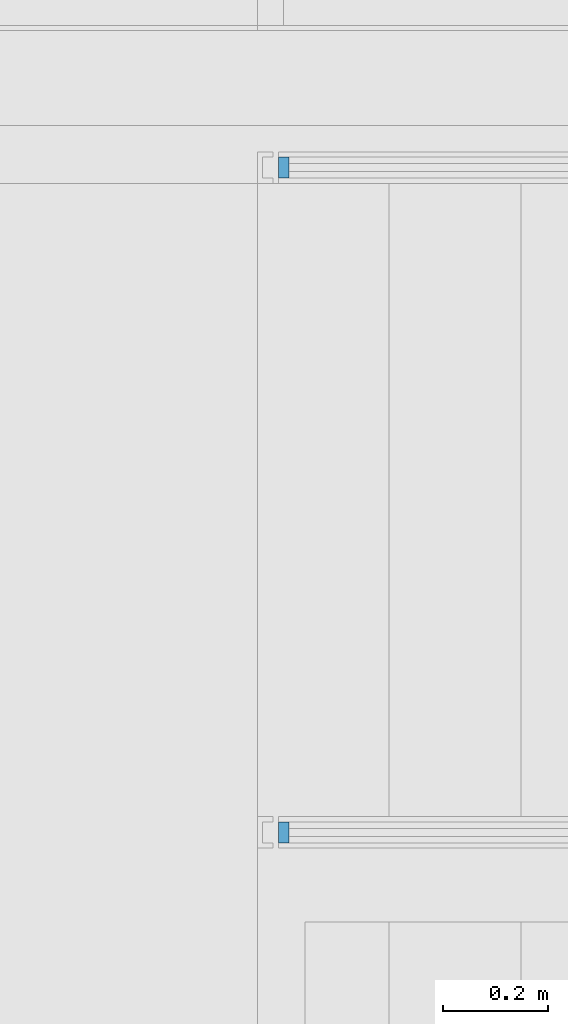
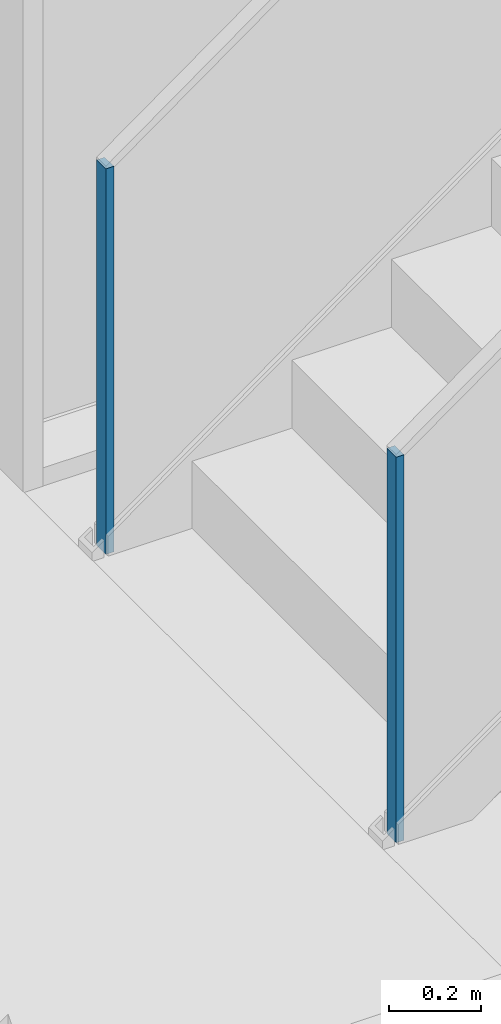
# One storey, part 12 of 347: 2 columns.
"""IFC2X3 building model written with IfcOpenShell, lengths in millimetres."""

from ifc_helpers import new_model, entity, si_unit, converted_unit, derived_unit, money_unit, direction, frame, origin_with_axes, place, context, subcontext, project, spatial, faceted_brep, material, type_object, element, save


model = new_model("IFC2X3")

# Units and contexts
model_context = context("Model", 3, precision=0.01, world=origin_with_axes(), true_north=direction((0.0, 1.0)))
plan_context = context("Plan", 3, precision=0.01, world=origin_with_axes(), true_north=direction((0.0, 1.0)))
body_context = subcontext(model_context, "Body", "Model", "MODEL_VIEW")
ifc_project = project(units=[si_unit("LENGTHUNIT", "METRE", prefix="MILLI"), si_unit("AREAUNIT", "SQUARE_METRE"), si_unit("VOLUMEUNIT", "CUBIC_METRE"), converted_unit("PLANEANGLEUNIT", "DEGREE", entity("IfcPlaneAngleMeasure", 0.0174532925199), si_unit("PLANEANGLEUNIT", "RADIAN"), dimensions=[0, 0, 0, 0, 0, 0, 0]), money_unit("EUR"), converted_unit("TIMEUNIT", "Year", entity("IfcTimeMeasure", 31556926.0), si_unit("TIMEUNIT", "SECOND"), dimensions=[0, 0, 1, 0, 0, 0, 0]), si_unit("MASSUNIT", "GRAM", prefix="KILO"), si_unit("THERMODYNAMICTEMPERATUREUNIT", "DEGREE_CELSIUS"), si_unit("LUMINOUSINTENSITYUNIT", "LUMEN"), si_unit("ENERGYUNIT", "JOULE", prefix="MEGA"), derived_unit("THERMALCONDUCTANCEUNIT", [(si_unit("POWERUNIT", "WATT"), 1), (si_unit("LENGTHUNIT", "METRE"), -1), (si_unit("THERMODYNAMICTEMPERATUREUNIT", "KELVIN"), -1)]), derived_unit("SPECIFICHEATCAPACITYUNIT", [(si_unit("ENERGYUNIT", "JOULE"), 1), (si_unit("MASSUNIT", "GRAM", prefix="KILO"), -1), (si_unit("THERMODYNAMICTEMPERATUREUNIT", "KELVIN"), -1)]), derived_unit("MASSDENSITYUNIT", [(si_unit("MASSUNIT", "GRAM", prefix="KILO"), 1), (si_unit("VOLUMEUNIT", "CUBIC_METRE"), -1)])], contexts=[model_context, plan_context])

# Site, building, storey
site_placement = place(None, origin_with_axes())
site = spatial("IfcSite", under=ifc_project, at=site_placement, Name="Site", CompositionType="ELEMENT")
building_placement = place(site_placement, origin_with_axes())
building = spatial("IfcBuilding", under=site, at=building_placement, Name="Naam gebouw", CompositionType="ELEMENT")
storey_placement = place(building_placement, origin_with_axes())
storey = spatial("IfcBuildingStorey", under=building, at=storey_placement, Name="begane grond", CompositionType="ELEMENT", Elevation=0.0)

# Columns
ifc_material = material(Name="Metaal - RVS")
column_type = type_object("IfcColumnType", Name="Metaal - RVS 40 x 20", PredefinedType="COLUMN")
column_1_placement = place(storey_placement, frame((19915.0, 18129.9999991, 0.0), z_axis=(0.0, 0.0, 1.0), x_axis=(0.0, 1.0, 0.0)))
element("IfcColumn", 1, at=column_1_placement, inside=storey, type_object=column_type, material=ifc_material, Name="28_kolom ø 274mm", ObjectType="COLUMN", context=body_context, shape_type="Brep", body=[
    faceted_brep([(-20.0, 10.0, 1021.59999667), (20.0, 10.0, 1021.59999667), (20.0, 10.0, 0.0), (-20.0, 10.0, 0.0), (-20.0, -10.0, 1021.59999667), (20.0, -10.0, 1021.59999667), (20.0, -10.0, 0.0), (-20.0, -10.0, 0.0)], [[[0, 1, 2, 3]], [[4, 5, 1, 0]], [[1, 5, 6, 2]], [[7, 3, 2, 6]], [[4, 0, 3, 7]], [[5, 4, 7, 6]]]),
])
column_2_placement = place(storey_placement, frame((19915.0, 16870.0000009, 0.0), z_axis=(0.0, 0.0, 1.0), x_axis=(0.0, 1.0, 0.0)))
element("IfcColumn", 2, at=column_2_placement, inside=storey, type_object=column_type, material=ifc_material, Name="28_kolom ø 274mm", ObjectType="COLUMN", context=body_context, shape_type="Brep", body=[
    faceted_brep([(20.0, -10.0, 1021.59999667), (-20.0, -10.0, 1021.59999667), (-20.0, -10.0, 0.0), (20.0, -10.0, 0.0), (20.0, 10.0, 1021.59999667), (-20.0, 10.0, 1021.59999667), (-20.0, 10.0, 0.0), (20.0, 10.0, 0.0)], [[[0, 1, 2, 3]], [[4, 5, 1, 0]], [[1, 5, 6, 2]], [[7, 3, 2, 6]], [[4, 0, 3, 7]], [[5, 4, 7, 6]]]),
])

save(model, "model.ifc")
